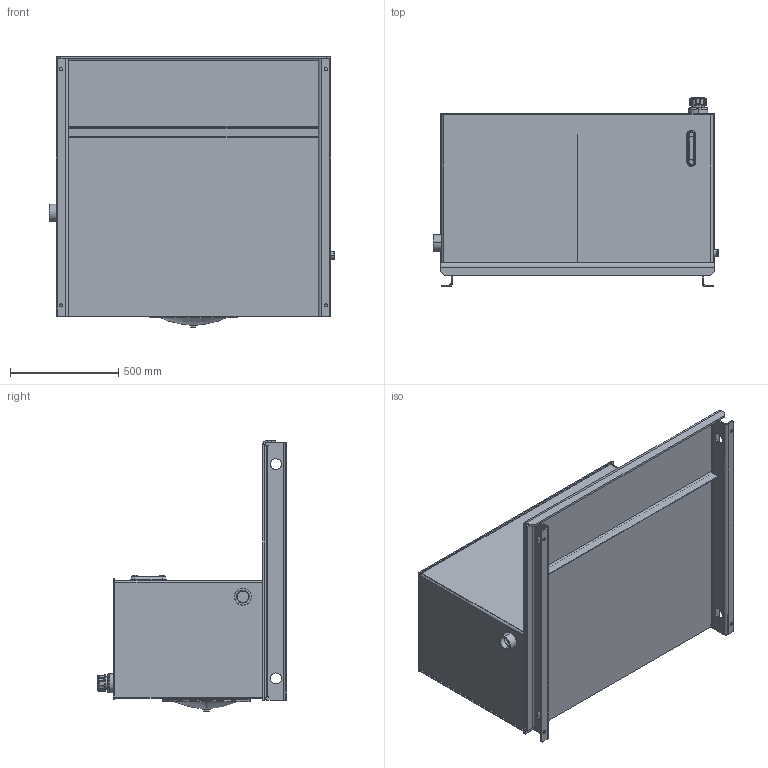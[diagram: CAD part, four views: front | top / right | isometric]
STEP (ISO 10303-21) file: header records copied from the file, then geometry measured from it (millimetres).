
FILE_DESCRIPTION (( 'STEP AP203' ), '1' );
FILE_NAME ('RLC100-FT.STEP', '2015-01-07T16:53:18', ( '' ), ( '' ), 'SwSTEP 2.0', 'SolidWorks 2014', '' );
FILE_SCHEMA (( 'CONFIG_CONTROL_DESIGN' ));
Length unit declared in the file: inch
Products named in the file (1): RLC100-FT
Bounding box: 1320.8 x 877.19 x 1256.43 mm (x, y, z)
Volume: 35756133.9 mm3; surface area: 11688589.4 mm2
Topology: 20 solids, 20 shells, 685 faces, 1607 edges, 961 vertices
Faces by surface type: cylinder 238, plane 236, cone 86, torus 51, bspline 46, sphere 28
Entity records: 21814 total; most frequent: CARTESIAN_POINT 5916, DIRECTION 3469, ORIENTED_EDGE 3190, EDGE_CURVE 1595, AXIS2_PLACEMENT_3D 1366, VERTEX_POINT 961, EDGE_LOOP 774, VECTOR 737
